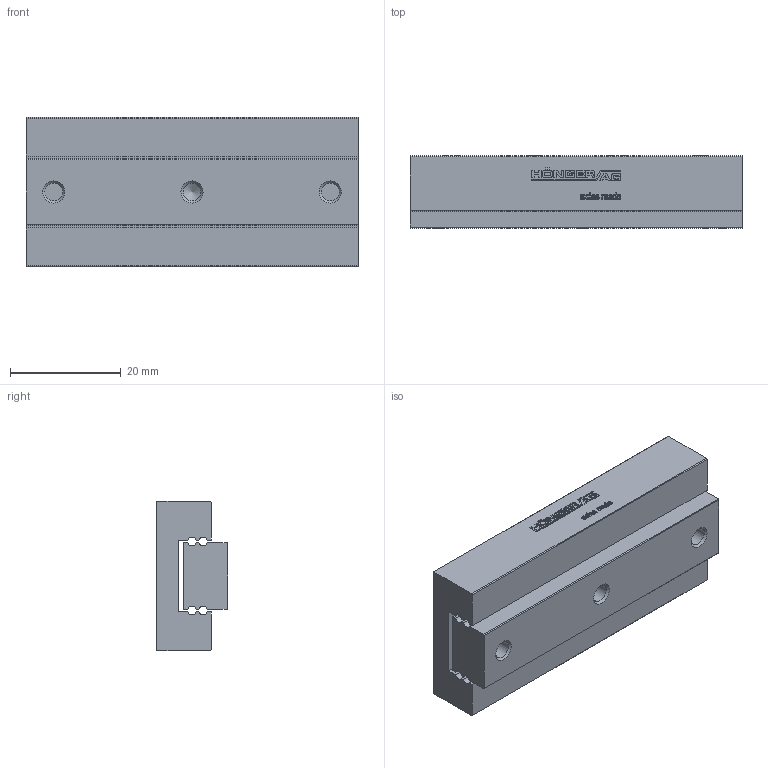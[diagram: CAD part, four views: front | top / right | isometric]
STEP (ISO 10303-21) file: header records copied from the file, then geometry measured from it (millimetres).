
FILE_DESCRIPTION(/* description */ ('STEP AP214'),/* implementation_level */ '2;1');
FILE_NAME(/* name */ 'MSK 12-60.53(0)',/* time_stamp */ '2025-04-16T17:03:50+02:00',/* author */ ('License CC BY-ND 4.0'),/* organization */ ('CADENAS'),/* preprocessor_version */ 'ST-DEVELOPER v19.3',/* originating_system */ 'PARTsolutions',/* authorisation */ ' ');
FILE_SCHEMA (('AUTOMOTIVE_DESIGN {1 0 10303 214 3 1 1}'));
Length unit declared in the file: millimetre
Products named in the file (3): MSK 12-60.53(0); MSK 12-60.53_1; MSK 12-60.53_2
Assembly tree (2 placements, depth 2):
  MSK 12-60.53(0)
    MSK 12-60.53_1
    MSK 12-60.53_2
Bounding box: 60 x 13 x 27 mm (x, y, z)
Volume: 16447.9 mm3; surface area: 8905.3 mm2
Topology: 2 solids, 2 shells, 538 faces, 1479 edges, 982 vertices
Faces by surface type: cylinder 313, plane 213, cone 12
Full cylindrical faces by diameter (mm): 2.459 x8, 3.242 x3, 6 x2
Entity records: 17297 total; most frequent: DIRECTION 3172, CARTESIAN_POINT 2976, ORIENTED_EDGE 2906, EDGE_CURVE 1453, AXIS2_PLACEMENT_3D 1178, VERTEX_POINT 982, LINE 816, VECTOR 816
